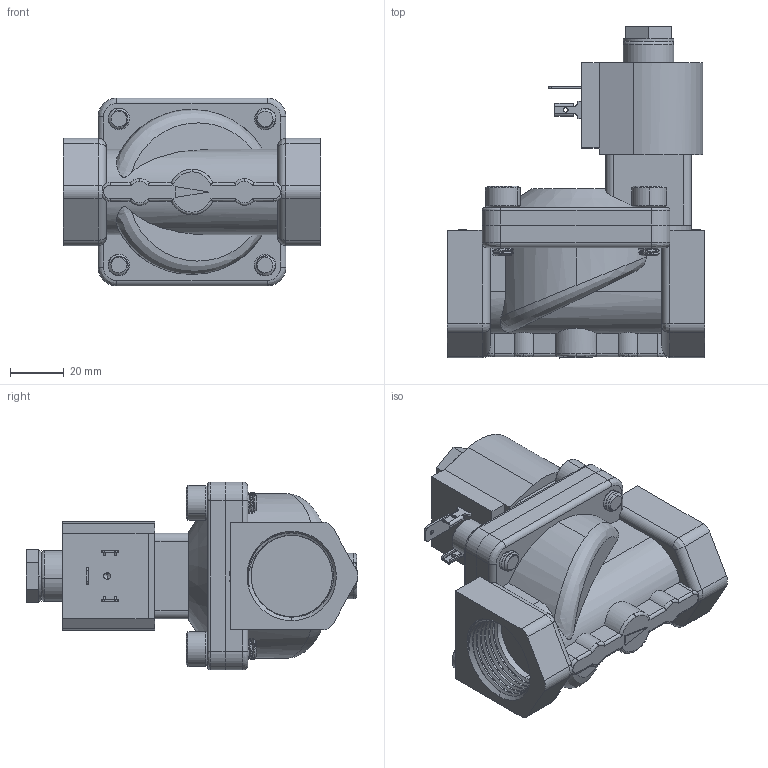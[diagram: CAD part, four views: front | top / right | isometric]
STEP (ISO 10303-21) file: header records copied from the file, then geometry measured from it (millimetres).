
FILE_DESCRIPTION (( 'STEP AP203' ), '1' );
FILE_NAME ('S712Yxxxx9FG9.STEP', '2024-12-23T19:50:16', ( '' ), ( '' ), 'SwSTEP 2.0', 'SolidWorks 2023', '' );
FILE_SCHEMA (( 'CONFIG_CONTROL_DESIGN' ));
Length unit declared in the file: millimetre
Products named in the file (1): S712Yxxxx9FG9
Bounding box: 96 x 123.71 x 70 mm (x, y, z)
Volume: 276257.9 mm3; surface area: 45567.2 mm2
Topology: 1 solids, 3 shells, 505 faces, 1273 edges, 799 vertices
Faces by surface type: plane 202, cylinder 182, cone 63, bspline 56, torus 2
Entity records: 25496 total; most frequent: CARTESIAN_POINT 14216, ORIENTED_EDGE 2538, DIRECTION 2097, EDGE_CURVE 1269, VERTEX_POINT 799, AXIS2_PLACEMENT_3D 726, LINE 645, VECTOR 645
